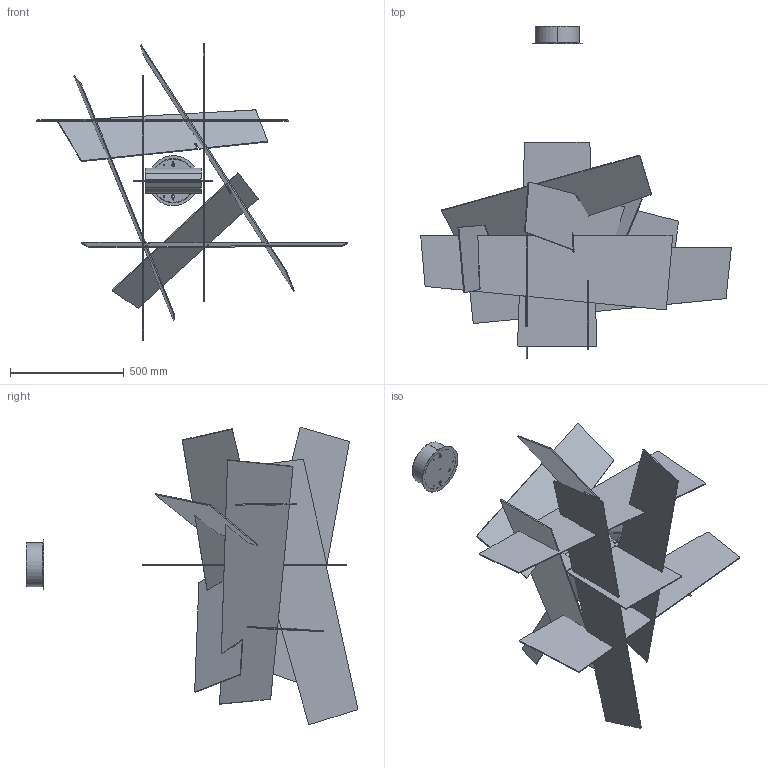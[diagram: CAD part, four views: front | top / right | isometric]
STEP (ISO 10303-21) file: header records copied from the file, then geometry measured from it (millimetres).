
FILE_DESCRIPTION (( 'STEP AP214' ), '1' );
FILE_NAME ('151_LARGE_S_LD_3D.STEP', '2021-05-20T11:01:01', ( '' ), ( '' ), 'SwSTEP 2.0', 'SolidWorks 2021', '' );
FILE_SCHEMA (( 'AUTOMOTIVE_DESIGN' ));
Length unit declared in the file: millimetre
Products named in the file (1): 151_LARGE_S_LD_3D
Bounding box: 1364.56 x 1457.25 x 1306.19 mm (x, y, z)
Volume: 11423671.8 mm3; surface area: 5509940.1 mm2
Topology: 13 solids, 13 shells, 373 faces, 1025 edges, 682 vertices
Faces by surface type: cylinder 200, plane 169, torus 4
Entity records: 16304 total; most frequent: DIRECTION 2181, CARTESIAN_POINT 2081, ORIENTED_EDGE 2050, EDGE_CURVE 1025, AXIS2_PLACEMENT_3D 782, VERTEX_POINT 682, VECTOR 617, LINE 617
